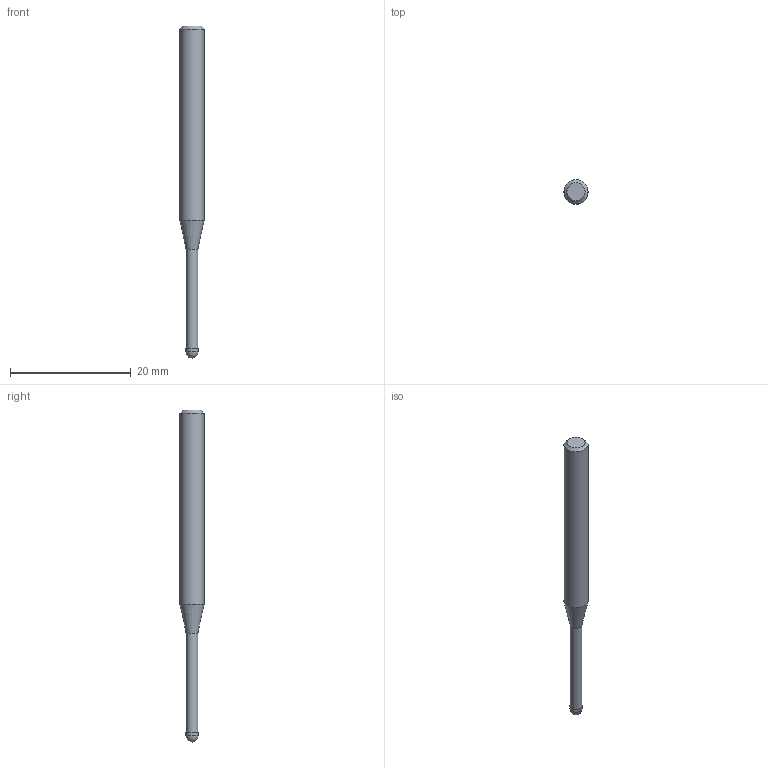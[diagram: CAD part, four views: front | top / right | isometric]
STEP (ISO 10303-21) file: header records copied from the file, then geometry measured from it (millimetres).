
FILE_DESCRIPTION((''),'2;1');
FILE_NAME('C:\Users\nsx150\AppData\Local\Temp\Mastercam 2021\ARV7HD45SN\TEMP.step','2023-06-13T16:37:41',(''),(''),'STEP Write','Mastercam 2021 ... CNC Software, Inc.','');
FILE_SCHEMA(('AUTOMOTIVE_DESIGN'));
Length unit declared in the file: millimetre
Products named in the file (1): None
Bounding box: 4 x 4 x 55 mm (x, y, z)
Volume: 490 mm3; surface area: 574.9 mm2
Topology: 2 solids, 2 shells, 9 faces, 14 edges, 8 vertices
Faces by surface type: plane 3, cylinder 3, cone 2, sphere 1
Full cylindrical faces by diameter (mm): 1.94 x1, 2 x1, 4 x1
Entity records: 211 total; most frequent: DIRECTION 36, CARTESIAN_POINT 25, AXIS2_PLACEMENT_3D 18, ORIENTED_EDGE 14, EDGE_LOOP 14, STYLED_ITEM 12, ADVANCED_FACE 9, FACE_BOUND 8
